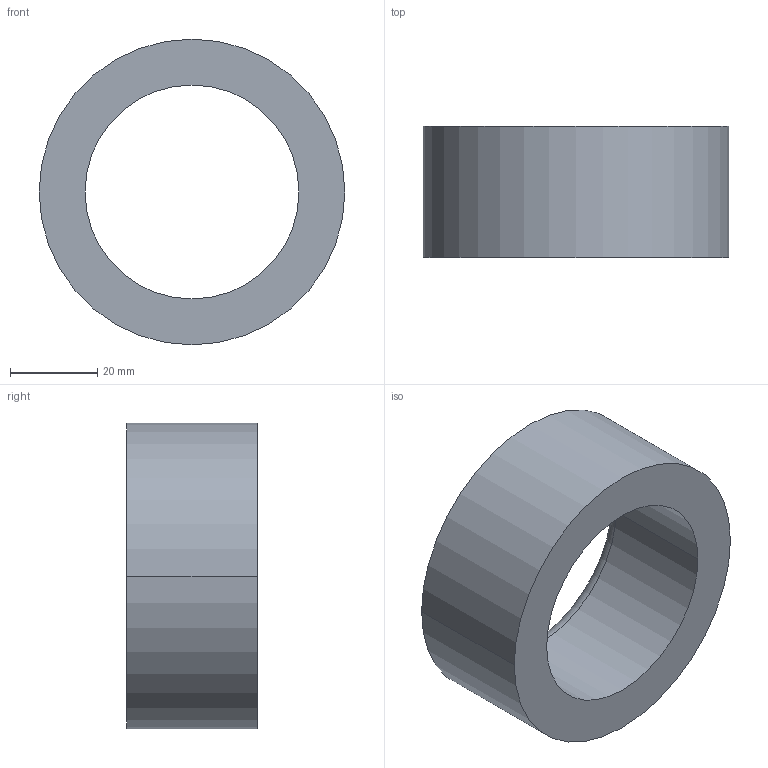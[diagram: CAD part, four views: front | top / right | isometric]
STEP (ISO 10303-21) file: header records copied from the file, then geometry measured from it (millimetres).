
FILE_DESCRIPTION (( 'STEP AP203' ), '1' );
FILE_NAME ('30800.WPP70L49.0.step', '2019-01-23T22:59:07', ( '' ), ( '' ), 'SwSTEP 2.0', 'SolidWorks 2017', '' );
FILE_SCHEMA (( 'CONFIG_CONTROL_DESIGN' ));
Length unit declared in the file: millimetre
Products named in the file (1): 30800.WPP70L49.0
Bounding box: 70 x 30 x 70 mm (x, y, z)
Volume: 58463.7 mm3; surface area: 14915.1 mm2
Topology: 1 solids, 1 shells, 8 faces, 16 edges, 10 vertices
Faces by surface type: cylinder 4, torus 2, plane 2
Entity records: 297 total; most frequent: DIRECTION 46, CARTESIAN_POINT 35, ORIENTED_EDGE 32, AXIS2_PLACEMENT_3D 21, EDGE_CURVE 16, CIRCLE 12, EDGE_LOOP 10, VERTEX_POINT 10
